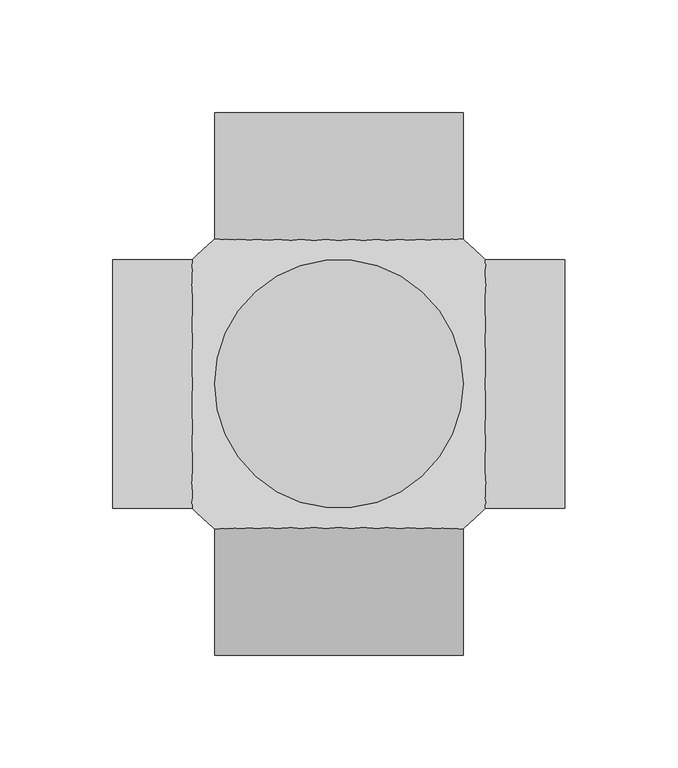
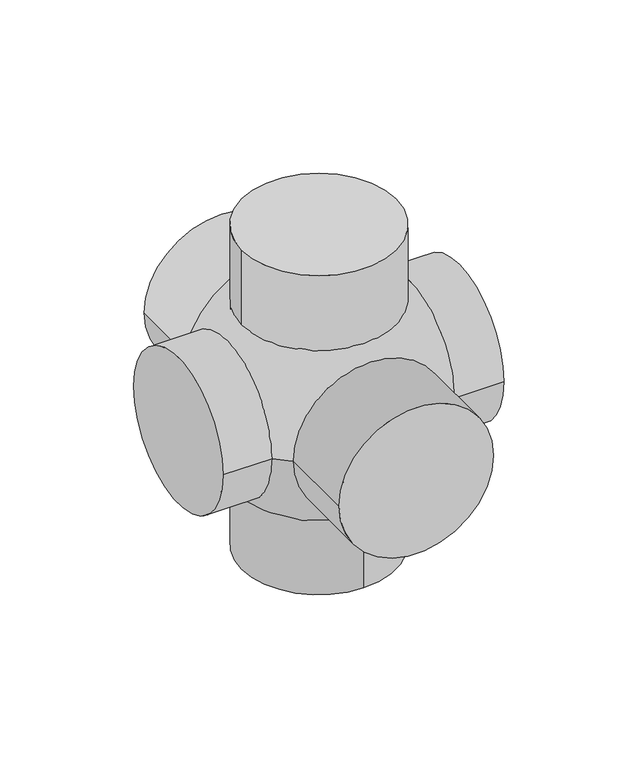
"""IFC4 building model written with IfcOpenShell, lengths in millimetres: pipe fitting geometry, NLRS_52_PIF_UN_PE kogel T-stuk 88,5° viervoudig, aansluitingen 90° sprong_geb : DN60-150 / ø63-160."""

from ifc_helpers import new_model, si_unit, point, frame, origin, origin_with_axes, origin_2d, place, context, project, spatial, circle_curve, ellipse_curve, trimmed, segment, composite_curve, outline, extrude, source, transform, mapped, element, save
from ifc_brep_helpers import plane_surface, cylinder_surface, revolved_surface, advanced_brep


def pipe_fitting_4cfa4c72(model_context):
    return source(origin(), model_context, "Body", "SolidModel", [
        extrude(outline(composite_curve([segment(trimmed(circle_curve(origin_2d(), 55.0), [point((0.0, 55.0))], [point((0.0, -55.0))], False, "CARTESIAN"), True, "CONTINUOUS"), segment(trimmed(circle_curve(origin_2d(), 55.0), [point((0.0, -55.0))], [point((0.0, 55.0))], False, "CARTESIAN"), True, "CONTINUOUS")], self_intersect=False)), frame((0.0, 0.0, -120.0), z_axis=(0.0, 0.0, 1.0), x_axis=(1.0, 0.0, 0.0)), (0.0, 0.0, 1.0), 120.0),
        extrude(outline(composite_curve([segment(trimmed(circle_curve(origin_2d(), 55.0), [point((0.0, -55.0))], [point((0.0, 55.0))], False, "CARTESIAN"), True, "CONTINUOUS"), segment(trimmed(circle_curve(origin_2d(), 55.0), [point((0.0, 55.0))], [point((0.0, -55.0))], False, "CARTESIAN"), True, "CONTINUOUS")], self_intersect=False)), frame((0.0, -120.0, 0.0), z_axis=(0.0, 1.0, 0.0), x_axis=(0.0, 0.0, 1.0)), (0.0, 0.0, 1.0), 120.0),
        extrude(outline(composite_curve([segment(trimmed(circle_curve(origin_2d(), 55.0), [point((0.0, 55.0))], [point((0.0, -55.0))], False, "CARTESIAN"), True, "CONTINUOUS"), segment(trimmed(circle_curve(origin_2d(), 55.0), [point((0.0, -55.0))], [point((0.0, 55.0))], False, "CARTESIAN"), True, "CONTINUOUS")], self_intersect=False)), frame((0.0, 0.0, 0.0), z_axis=(0.0, 1.0, 0.0), x_axis=(0.0, 0.0, 1.0)), (0.0, 0.0, 1.0), 120.0),
        extrude(outline(composite_curve([segment(trimmed(circle_curve(origin_2d(), 55.0), [point((55.0, 0.0))], [point((-55.0, 0.0))], False, "CARTESIAN"), True, "CONTINUOUS"), segment(trimmed(circle_curve(origin_2d(), 55.0), [point((-55.0, 0.0))], [point((55.0, 0.0))], False, "CARTESIAN"), True, "CONTINUOUS")], self_intersect=False)), origin_with_axes(), (0.0, 0.0, 1.0), 120.0),
        advanced_brep(
        [(0.0, -85.0, 0.0), (-64.807407, -55.0, 0.0), (-64.807407, 55.0, 0.0), (0.0, 85.0, 0.0), (64.807407, 55.0, 0.0), (64.807407, -55.0, 0.0), (100.0, -55.0, 0.0), (100.0, 55.0, 0.0), (-100.0, -55.0, 0.0), (-100.0, 55.0, 0.0)],
        [
            (0, 1, circle_curve(frame((0.0, 0.0, 0.0), z_axis=(0.0, 0.0, -1.0), x_axis=(1.0, 0.0, 0.0)), 85.0)),
            (1, 2, circle_curve(frame((-64.807407, 0.0, 0.0), z_axis=(1.0, 0.0, 0.0), x_axis=(0.0, 1.0, 0.0)), 55.0)),
            (2, 3, circle_curve(frame((0.0, 0.0, 0.0), z_axis=(0.0, 0.0, -1.0), x_axis=(1.0, 0.0, 0.0)), 85.0)),
            (3, 4, circle_curve(frame((0.0, 0.0, 0.0), z_axis=(0.0, 0.0, -1.0), x_axis=(-1.0, 0.0, 0.0)), 85.0)),
            (4, 5, circle_curve(frame((64.807407, 0.0, 0.0), z_axis=(-1.0, 0.0, 0.0), x_axis=(0.0, 1.0, 0.0)), 55.0)),
            (5, 0, circle_curve(frame((0.0, 0.0, 0.0), z_axis=(0.0, 0.0, -1.0), x_axis=(-1.0, 0.0, 0.0)), 85.0)),
            (5, 4, circle_curve(frame((64.807407, 0.0, 0.0), z_axis=(-1.0, 0.0, 0.0), x_axis=(0.0, 1.0, 0.0)), 55.0)),
            (2, 1, circle_curve(frame((-64.807407, 0.0, 0.0), z_axis=(1.0, 0.0, 0.0), x_axis=(0.0, 1.0, 0.0)), 55.0)),
            (6, 7, circle_curve(frame((100.0, 0.0, 0.0), z_axis=(1.0, 0.0, 0.0), x_axis=(0.0, 1.0, 0.0)), 55.0)),
            (7, 6, circle_curve(frame((100.0, 0.0, 0.0), z_axis=(1.0, 0.0, 0.0), x_axis=(0.0, 1.0, 0.0)), 55.0)),
            (8, 9, circle_curve(frame((-100.0, 0.0, 0.0), z_axis=(-1.0, 0.0, 0.0), x_axis=(0.0, 1.0, 0.0)), 55.0)),
            (9, 8, circle_curve(frame((-100.0, 0.0, 0.0), z_axis=(-1.0, 0.0, 0.0), x_axis=(0.0, 1.0, 0.0)), 55.0)),
            (6, 5),
            (4, 7),
            (9, 2),
            (1, 8),
        ],
        [
            revolved_surface(trimmed(ellipse_curve(origin_with_axes(), 85.0, 85.0), [point((0.0, 85.0, 0.0))], [point((0.0, -85.0, 0.0))], True, "CARTESIAN"), (0.0, 125.0, 0.0), (0.0, -1.0, 0.0)),
            plane_surface(frame((100.0, 55.0, 0.0), z_axis=(1.0, 0.0, 0.0), x_axis=(0.0, 0.0, 1.0))),
            plane_surface(frame((-100.0, 55.0, 0.0), z_axis=(-1.0, 0.0, 0.0), x_axis=(0.0, 0.0, -1.0))),
            cylinder_surface(frame((-100.0, 0.0, 0.0), z_axis=(1.0, 0.0, 0.0), x_axis=(0.0, 1.0, 0.0)), 55.0),
        ],
        [
            (0, [[1, 2, 3, 4, 5, 6]]),
            (0, [[-1, -6, 7, -4, -3, 8]]),
            (1, [[9, 10]]),
            (2, [[11, 12]]),
            (3, [[-9, 13, -5, 14]]),
            (3, [[-12, 15, -2, 16]]),
            (3, [[-10, -14, -7, -13]]),
            (3, [[-11, -16, -8, -15]]),
        ],
    ),
    ])


if __name__ == "__main__":
    model = new_model("IFC4")
    model_context = context("Model", 3, world=origin())
    ifc_project = project(units=[si_unit("LENGTHUNIT", "METRE", prefix="MILLI")], contexts=[model_context])
    site = spatial("IfcSite", under=ifc_project)
    building = spatial("IfcBuilding", under=site)
    placement = place(None, origin())
    pipe_fitting_shape = pipe_fitting_4cfa4c72(model_context)
    element("IfcPipeFitting", 1, ObjectType="NLRS_52_PIF_UN_PE kogel T-stuk 88,5° viervoudig, aansluitingen 90° sprong_geb : DN60-150 / ø63-160", at=placement, inside=building, context=model_context, shape_type="MappedRepresentation", body=[
        mapped(pipe_fitting_shape, transform((0.0, 0.0, 0.0), x_axis=(1.0, 0.0, 0.0), y_axis=(0.0, 1.0, 0.0), z_axis=(0.0, 0.0, 1.0))),
    ])
    save(model, "model.ifc")
